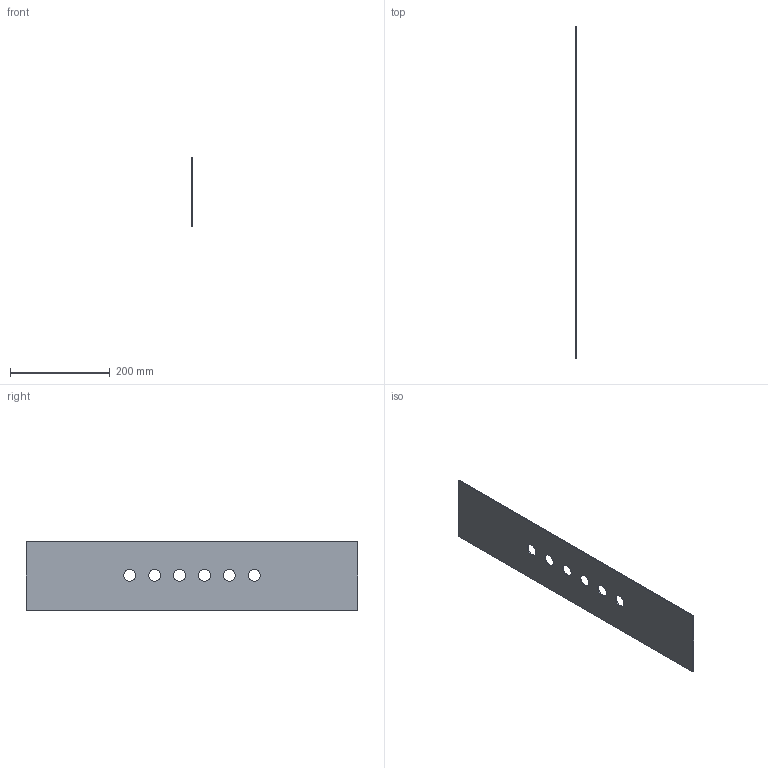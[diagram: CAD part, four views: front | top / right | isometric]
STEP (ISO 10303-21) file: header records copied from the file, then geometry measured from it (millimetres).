
FILE_DESCRIPTION(/* description */ (''),/* implementation_level */ '2;1');
FILE_NAME(/* name */ 'cmdmx-achterplaat.step',/* time_stamp */ '2026-11-13T14:05:41+01:00',/* author */ (''),/* organization */ (''),/* preprocessor_version */ 'ST-DEVELOPER v20.2',/* originating_system */ 'Autodesk Translation Framework v15.17.0.0',/* authorisation */ '');
FILE_SCHEMA (('AUTOMOTIVE_DESIGN { 1 0 10303 214 3 1 1 }'));
Length unit declared in the file: millimetre
Products named in the file (1): 2026-11-13-14-05-41-489
Bounding box: 2 x 666 x 137 mm (x, y, z)
Volume: 177055.3 mm3; surface area: 181172.1 mm2
Topology: 1 solids, 1 shells, 12 faces, 30 edges, 20 vertices
Faces by surface type: cylinder 6, plane 6
Full cylindrical faces by diameter (mm): 24 x6
Entity records: 430 total; most frequent: DIRECTION 68, CARTESIAN_POINT 63, ORIENTED_EDGE 60, EDGE_CURVE 30, AXIS2_PLACEMENT_3D 25, EDGE_LOOP 24, VERTEX_POINT 20, LINE 18
